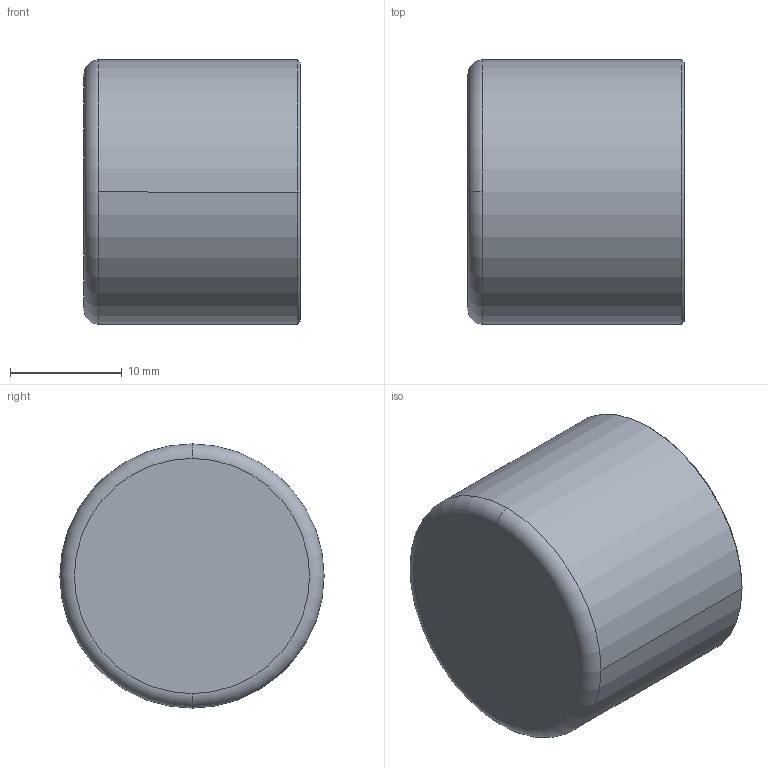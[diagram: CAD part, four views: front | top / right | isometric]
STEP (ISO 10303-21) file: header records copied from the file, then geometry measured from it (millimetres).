
FILE_DESCRIPTION((''),'2;1');
FILE_NAME('C:\sanha_work\5130\f\530122.stp','2005-10-21T18:20:03',('Kris'),(''),'Autodesk Inventor 8','Autodesk Inventor 8','');
FILE_SCHEMA(('AUTOMOTIVE_DESIGN { 1 0 10303 214 1 1 1 1 }'));
Length unit declared in the file: millimetre
Products named in the file (1): 530122
Bounding box: 19.3 x 23.6 x 23.6 mm (x, y, z)
Volume: 1384.6 mm3; surface area: 3510.6 mm2
Topology: 1 solids, 1 shells, 15 faces, 34 edges, 22 vertices
Faces by surface type: torus 4, cylinder 4, cone 4, plane 3
Entity records: 461 total; most frequent: DIRECTION 92, CARTESIAN_POINT 72, ORIENTED_EDGE 68, AXIS2_PLACEMENT_3D 42, EDGE_CURVE 34, CIRCLE 26, VERTEX_POINT 22, EDGE_LOOP 16
